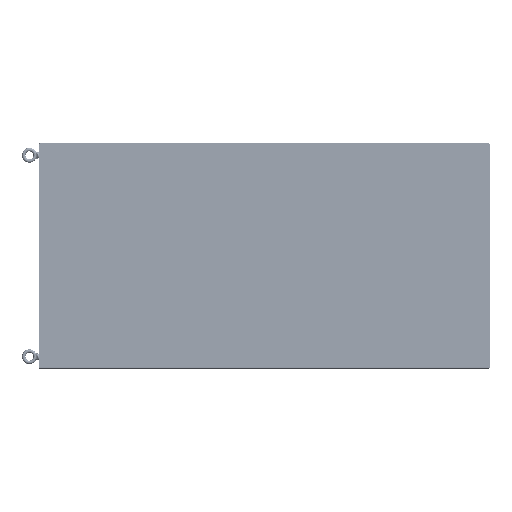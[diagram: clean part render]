
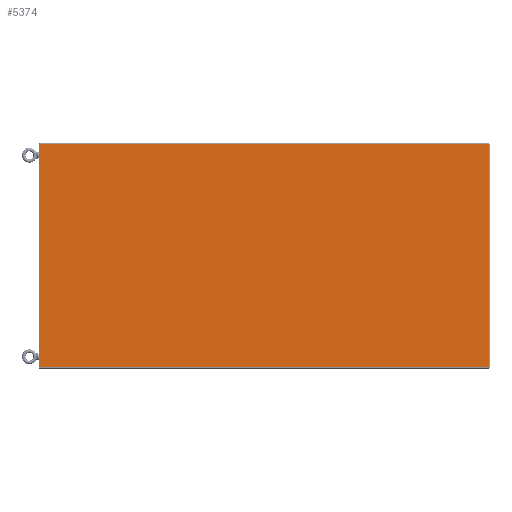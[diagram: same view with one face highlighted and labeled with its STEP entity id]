
A CAD part, front view. The second image highlights one B-rep face of the part: STEP entity #5374.
In plain terms, the highlighted planar face has unit normal (0, -1, 0) as drawn and (0, 0, 1) by its records, which use the part's own axes.
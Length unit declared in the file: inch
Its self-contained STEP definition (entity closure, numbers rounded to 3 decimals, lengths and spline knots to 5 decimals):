
#2127=DIRECTION('',(1.,0.,0.));
#2128=VECTOR('',#2127,78.532);
#2129=CARTESIAN_POINT('',(0.,0.2465,0.052));
#2130=LINE('',#2129,#2128);
#2157=CARTESIAN_POINT('',(0.015,39.251,0.052));
#2158=DIRECTION('',(0.,0.,1.));
#2159=DIRECTION('',(0.,1.,0.));
#2160=AXIS2_PLACEMENT_3D('',#2157,#2158,#2159);
#2165=DIRECTION('',(-1.,0.,0.));
#2166=VECTOR('',#2165,78.502);
#2167=CARTESIAN_POINT('',(78.517,39.266,0.052));
#2168=LINE('',#2167,#2166);
#2172=CARTESIAN_POINT('',(78.517,39.251,0.052));
#2173=DIRECTION('',(0.,0.,1.));
#2174=DIRECTION('',(1.,0.,0.));
#2175=AXIS2_PLACEMENT_3D('',#2172,#2173,#2174);
#2180=DIRECTION('',(0.,1.,0.));
#2181=VECTOR('',#2180,39.0045);
#2182=CARTESIAN_POINT('',(78.532,0.2465,0.052));
#2183=LINE('',#2182,#2181);
#2187=DIRECTION('',(0.,-1.,0.));
#2188=VECTOR('',#2187,39.0045);
#2189=CARTESIAN_POINT('',(0.,39.251,0.052));
#2190=LINE('',#2189,#2188);
#3591=CARTESIAN_POINT('',(0.,0.2465,0.052));
#3592=CARTESIAN_POINT('',(78.532,0.2465,0.052));
#3593=VERTEX_POINT('',#3591);
#3594=VERTEX_POINT('',#3592);
#3607=CARTESIAN_POINT('',(0.015,39.266,0.052));
#3608=CARTESIAN_POINT('',(0.,39.251,0.052));
#3609=VERTEX_POINT('',#3607);
#3610=VERTEX_POINT('',#3608);
#3615=CARTESIAN_POINT('',(78.532,39.251,0.052));
#3616=CARTESIAN_POINT('',(78.517,39.266,0.052));
#3617=VERTEX_POINT('',#3615);
#3618=VERTEX_POINT('',#3616);
#5356=CARTESIAN_POINT('',(78.532,0.,0.052));
#5357=DIRECTION('',(0.,0.,1.));
#5358=DIRECTION('',(1.,0.,0.));
#5359=AXIS2_PLACEMENT_3D('',#5356,#5357,#5358);
#5360=PLANE('',#5359);
#5362=ORIENTED_EDGE('',*,*,#5361,.F.);
#5364=ORIENTED_EDGE('',*,*,#5363,.F.);
#5366=ORIENTED_EDGE('',*,*,#5365,.F.);
#5368=ORIENTED_EDGE('',*,*,#5367,.F.);
#5369=ORIENTED_EDGE('',*,*,#5347,.F.);
#5371=ORIENTED_EDGE('',*,*,#5370,.F.);
#5372=EDGE_LOOP('',(#5362,#5364,#5366,#5368,#5369,#5371));
#5373=FACE_OUTER_BOUND('',#5372,.F.);
#2161=CIRCLE('',#2160,0.015);
#2176=CIRCLE('',#2175,0.015);
#5347=EDGE_CURVE('',#3593,#3594,#2130,.T.);
#5361=EDGE_CURVE('',#3609,#3610,#2161,.T.);
#5363=EDGE_CURVE('',#3618,#3609,#2168,.T.);
#5365=EDGE_CURVE('',#3617,#3618,#2176,.T.);
#5367=EDGE_CURVE('',#3594,#3617,#2183,.T.);
#5370=EDGE_CURVE('',#3610,#3593,#2190,.T.);
#5374=ADVANCED_FACE('',(#5373),#5360,.T.);
